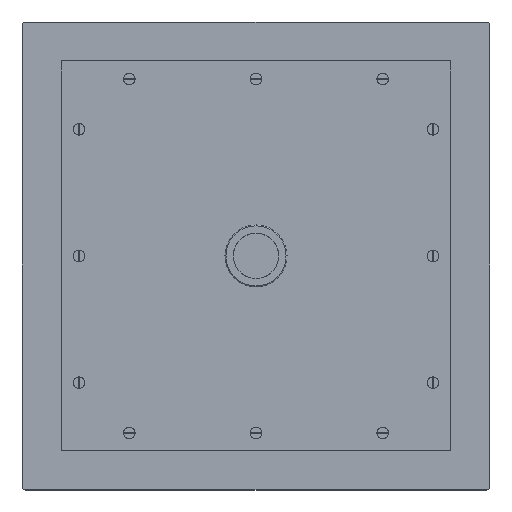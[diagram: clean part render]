
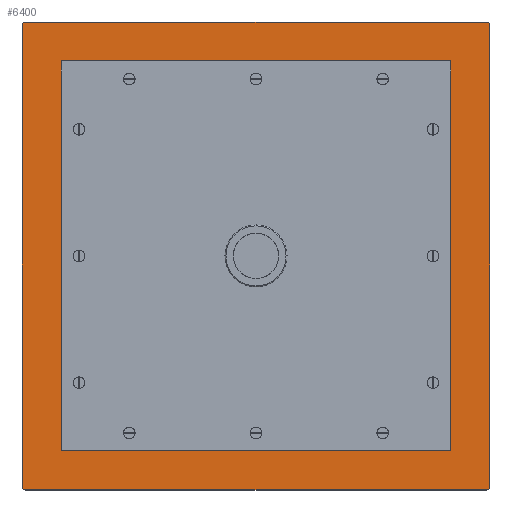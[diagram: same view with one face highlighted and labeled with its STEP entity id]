
A CAD part, top view. The second image highlights one B-rep face of the part: STEP entity #6400.
In plain terms, the highlighted planar face has unit normal (0, 0, 1).
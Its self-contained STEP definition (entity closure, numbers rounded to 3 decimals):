
#705=DIRECTION('',(-1.,0.,0.));
#706=VECTOR('',#705,236.);
#707=CARTESIAN_POINT('',(-382.,120.,0.));
#708=LINE('',#707,#706);
#709=CARTESIAN_POINT('',(-382.,118.,0.));
#710=DIRECTION('',(0.,0.,1.));
#711=DIRECTION('',(1.,0.,0.));
#712=AXIS2_PLACEMENT_3D('',#709,#710,#711);
#714=DIRECTION('',(0.,1.,0.));
#715=VECTOR('',#714,236.);
#716=CARTESIAN_POINT('',(-380.,-118.,0.));
#717=LINE('',#716,#715);
#718=CARTESIAN_POINT('',(-382.,-118.,0.));
#719=DIRECTION('',(0.,0.,1.));
#720=DIRECTION('',(0.,-1.,0.));
#721=AXIS2_PLACEMENT_3D('',#718,#719,#720);
#723=DIRECTION('',(1.,0.,0.));
#724=VECTOR('',#723,236.);
#725=CARTESIAN_POINT('',(-618.,-120.,0.));
#726=LINE('',#725,#724);
#727=CARTESIAN_POINT('',(-618.,-118.,0.));
#728=DIRECTION('',(0.,0.,1.));
#729=DIRECTION('',(-1.,0.,0.));
#730=AXIS2_PLACEMENT_3D('',#727,#728,#729);
#732=DIRECTION('',(0.,-1.,0.));
#733=VECTOR('',#732,236.);
#734=CARTESIAN_POINT('',(-620.,118.,0.));
#735=LINE('',#734,#733);
#736=CARTESIAN_POINT('',(-618.,118.,0.));
#737=DIRECTION('',(0.,0.,1.));
#738=DIRECTION('',(0.,1.,0.));
#739=AXIS2_PLACEMENT_3D('',#736,#737,#738);
#741=DIRECTION('',(0.,1.,0.));
#742=VECTOR('',#741,200.);
#743=CARTESIAN_POINT('',(-400.,-100.,0.));
#744=LINE('',#743,#742);
#745=DIRECTION('',(1.,0.,0.));
#746=VECTOR('',#745,200.);
#747=CARTESIAN_POINT('',(-600.,100.,0.));
#748=LINE('',#747,#746);
#749=DIRECTION('',(0.,1.,0.));
#750=VECTOR('',#749,200.);
#751=CARTESIAN_POINT('',(-600.,-100.,0.));
#752=LINE('',#751,#750);
#753=DIRECTION('',(1.,0.,0.));
#754=VECTOR('',#753,200.);
#755=CARTESIAN_POINT('',(-600.,-100.,0.));
#756=LINE('',#755,#754);
#4743=CARTESIAN_POINT('',(-382.,-120.,0.));
#4744=CARTESIAN_POINT('',(-380.,-118.,0.));
#4745=VERTEX_POINT('',#4743);
#4746=VERTEX_POINT('',#4744);
#4751=CARTESIAN_POINT('',(-620.,-118.,0.));
#4752=CARTESIAN_POINT('',(-618.,-120.,0.));
#4753=VERTEX_POINT('',#4751);
#4754=VERTEX_POINT('',#4752);
#4759=CARTESIAN_POINT('',(-380.,118.,0.));
#4760=CARTESIAN_POINT('',(-382.,120.,0.));
#4761=VERTEX_POINT('',#4759);
#4762=VERTEX_POINT('',#4760);
#4767=CARTESIAN_POINT('',(-620.,118.,0.));
#4768=VERTEX_POINT('',#4767);
#4773=CARTESIAN_POINT('',(-618.,120.,0.));
#4774=VERTEX_POINT('',#4773);
#5867=CARTESIAN_POINT('',(-400.,-100.,0.));
#5868=CARTESIAN_POINT('',(-400.,100.,0.));
#5869=VERTEX_POINT('',#5867);
#5870=VERTEX_POINT('',#5868);
#5871=CARTESIAN_POINT('',(-600.,-100.,0.));
#5872=VERTEX_POINT('',#5871);
#5873=CARTESIAN_POINT('',(-600.,100.,0.));
#5874=VERTEX_POINT('',#5873);
#6368=CARTESIAN_POINT('',(0.,0.,0.));
#6369=DIRECTION('',(0.,0.,-1.));
#6370=DIRECTION('',(-1.,0.,0.));
#6371=AXIS2_PLACEMENT_3D('',#6368,#6369,#6370);
#6372=PLANE('',#6371);
#6374=ORIENTED_EDGE('',*,*,#6373,.F.);
#6376=ORIENTED_EDGE('',*,*,#6375,.F.);
#6378=ORIENTED_EDGE('',*,*,#6377,.F.);
#6380=ORIENTED_EDGE('',*,*,#6379,.F.);
#6382=ORIENTED_EDGE('',*,*,#6381,.F.);
#6384=ORIENTED_EDGE('',*,*,#6383,.F.);
#6385=ORIENTED_EDGE('',*,*,#6358,.F.);
#6387=ORIENTED_EDGE('',*,*,#6386,.F.);
#6388=EDGE_LOOP('',(#6374,#6376,#6378,#6380,#6382,#6384,#6385,#6387));
#6389=FACE_OUTER_BOUND('',#6388,.F.);
#6391=ORIENTED_EDGE('',*,*,#6390,.T.);
#6393=ORIENTED_EDGE('',*,*,#6392,.F.);
#6395=ORIENTED_EDGE('',*,*,#6394,.F.);
#6397=ORIENTED_EDGE('',*,*,#6396,.T.);
#6398=EDGE_LOOP('',(#6391,#6393,#6395,#6397));
#6399=FACE_BOUND('',#6398,.F.);
#6400=ADVANCED_FACE('',(#6389,#6399),#6372,.F.);
#713=CIRCLE('',#712,2.);
#722=CIRCLE('',#721,2.);
#731=CIRCLE('',#730,2.);
#740=CIRCLE('',#739,2.);
#6358=EDGE_CURVE('',#4768,#4753,#735,.T.);
#6373=EDGE_CURVE('',#4762,#4774,#708,.T.);
#6375=EDGE_CURVE('',#4761,#4762,#713,.T.);
#6377=EDGE_CURVE('',#4746,#4761,#717,.T.);
#6379=EDGE_CURVE('',#4745,#4746,#722,.T.);
#6381=EDGE_CURVE('',#4754,#4745,#726,.T.);
#6383=EDGE_CURVE('',#4753,#4754,#731,.T.);
#6386=EDGE_CURVE('',#4774,#4768,#740,.T.);
#6390=EDGE_CURVE('',#5869,#5870,#744,.T.);
#6392=EDGE_CURVE('',#5874,#5870,#748,.T.);
#6394=EDGE_CURVE('',#5872,#5874,#752,.T.);
#6396=EDGE_CURVE('',#5872,#5869,#756,.T.);
